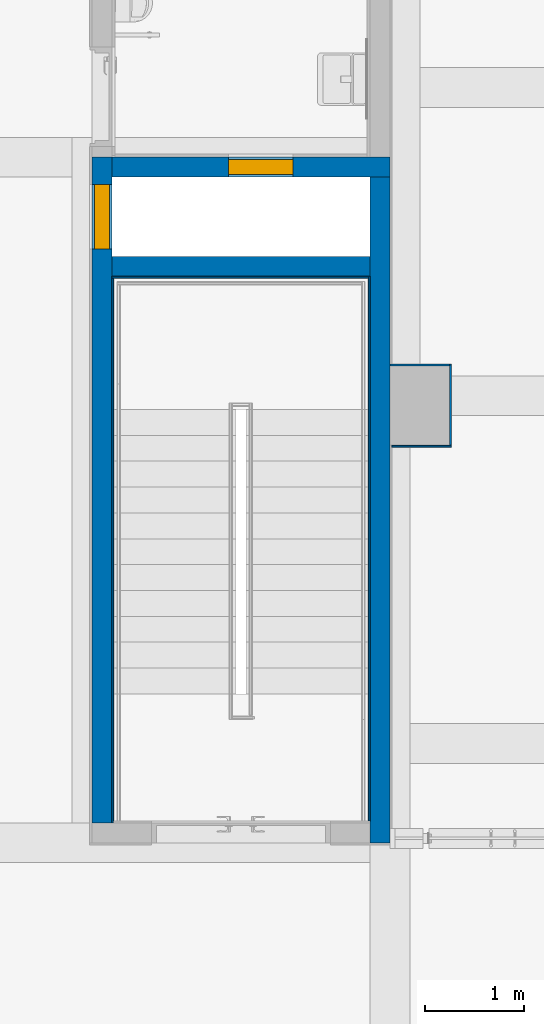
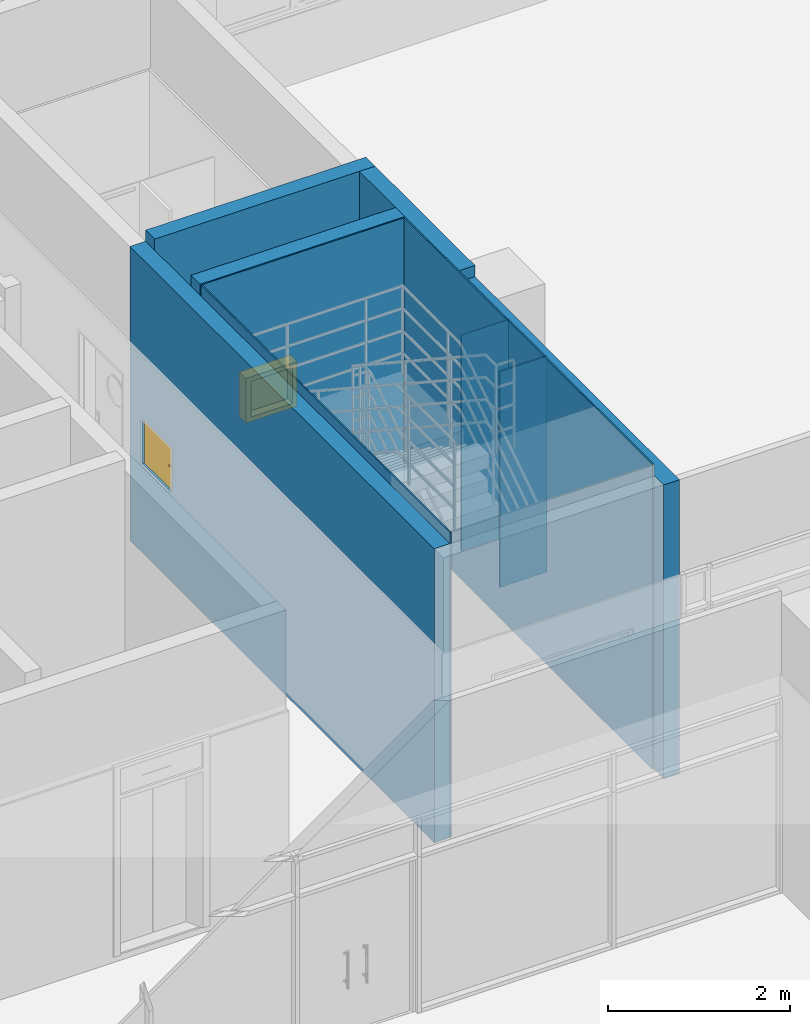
# One storey, part 58 of 81: 10 walls, 2 doors, 2 openings.
"""IFC2X3 building model written with IfcOpenShell, lengths in millimetres."""

from ifc_helpers import new_model, entity, si_unit, converted_unit, derived_unit, direction, frame, frame_2d, origin, place, context, subcontext, project, spatial, polyline, rectangle, extrude, clip, bounded_halfspace, faceted_brep, source, transform, mapped, material, material_list, layer, layer_set, layer_usage, type_object, type_shapes, element, fill, save


model = new_model("IFC2X3")

# Units and contexts
model_context = context("Model", 3, precision=0.01, world=origin(), true_north=direction((6.123031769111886e-17, 1.0)))
body_context = subcontext(model_context, "Body", "Model", "MODEL_VIEW")
ifc_project = project(units=[si_unit("LENGTHUNIT", "METRE", prefix="MILLI"), si_unit("AREAUNIT", "SQUARE_METRE"), si_unit("VOLUMEUNIT", "CUBIC_METRE"), converted_unit("PLANEANGLEUNIT", "DEGREE", entity("IfcRatioMeasure", 0.017453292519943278), si_unit("PLANEANGLEUNIT", "RADIAN"), dimensions=[0, 0, 0, 0, 0, 0, 0]), si_unit("MASSUNIT", "GRAM", prefix="KILO"), derived_unit("MASSDENSITYUNIT", [(si_unit("MASSUNIT", "GRAM", prefix="KILO"), 1), (si_unit("LENGTHUNIT", "METRE"), -3)]), derived_unit("MOMENTOFINERTIAUNIT", [(si_unit("LENGTHUNIT", "METRE"), 4)]), si_unit("TIMEUNIT", "SECOND"), si_unit("FREQUENCYUNIT", "HERTZ"), si_unit("THERMODYNAMICTEMPERATUREUNIT", "DEGREE_CELSIUS"), derived_unit("THERMALTRANSMITTANCEUNIT", [(si_unit("MASSUNIT", "GRAM", prefix="KILO"), 1), (si_unit("THERMODYNAMICTEMPERATUREUNIT", "KELVIN"), -1), (si_unit("TIMEUNIT", "SECOND"), -3)]), derived_unit("VOLUMETRICFLOWRATEUNIT", [(si_unit("LENGTHUNIT", "METRE"), 3), (si_unit("TIMEUNIT", "SECOND"), -1)]), derived_unit("MASSFLOWRATEUNIT", [(si_unit("MASSUNIT", "GRAM", prefix="KILO"), 1), (si_unit("TIMEUNIT", "SECOND"), -1)]), derived_unit("ROTATIONALFREQUENCYUNIT", [(si_unit("TIMEUNIT", "SECOND"), -1)]), si_unit("ELECTRICCURRENTUNIT", "AMPERE"), si_unit("ELECTRICVOLTAGEUNIT", "VOLT"), si_unit("POWERUNIT", "WATT"), si_unit("FORCEUNIT", "NEWTON", prefix="KILO"), si_unit("ILLUMINANCEUNIT", "LUX"), si_unit("LUMINOUSFLUXUNIT", "LUMEN"), si_unit("LUMINOUSINTENSITYUNIT", "CANDELA"), derived_unit("USERDEFINED", [(si_unit("MASSUNIT", "GRAM", prefix="KILO"), -1), (si_unit("LENGTHUNIT", "METRE"), -2), (si_unit("TIMEUNIT", "SECOND"), 3), (si_unit("LUMINOUSFLUXUNIT", "LUMEN"), 1)]), derived_unit("SOUNDPOWERUNIT", [(si_unit("MASSUNIT", "GRAM", prefix="KILO"), 1), (si_unit("LENGTHUNIT", "METRE"), 2), (si_unit("TIMEUNIT", "SECOND"), -3)]), derived_unit("SOUNDPRESSUREUNIT", [(si_unit("MASSUNIT", "GRAM", prefix="KILO"), 1), (si_unit("LENGTHUNIT", "METRE"), -1), (si_unit("TIMEUNIT", "SECOND"), -2)]), derived_unit("LINEARVELOCITYUNIT", [(si_unit("LENGTHUNIT", "METRE"), 1), (si_unit("TIMEUNIT", "SECOND"), -1)]), si_unit("PRESSUREUNIT", "PASCAL"), derived_unit("USERDEFINED", [(si_unit("LENGTHUNIT", "METRE"), -2), (si_unit("MASSUNIT", "GRAM", prefix="KILO"), 1), (si_unit("TIMEUNIT", "SECOND"), -2)]), derived_unit("LINEARFORCEUNIT", [(si_unit("MASSUNIT", "GRAM", prefix="KILO"), 1), (si_unit("LENGTHUNIT", "METRE"), 1), (si_unit("TIMEUNIT", "SECOND"), -2), (si_unit("LENGTHUNIT", "METRE"), -1)]), derived_unit("PLANARFORCEUNIT", [(si_unit("MASSUNIT", "GRAM", prefix="KILO"), 1), (si_unit("LENGTHUNIT", "METRE"), 1), (si_unit("TIMEUNIT", "SECOND"), -2), (si_unit("LENGTHUNIT", "METRE"), -2)])], contexts=[model_context])

# Site, building, storey
site_placement = place(None, frame((-14167.972527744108, -657.2125860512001, 0.0)))
site = spatial("IfcSite", under=ifc_project, at=site_placement, Name="Default", CompositionType="ELEMENT")
building_placement = place(site_placement, origin())
building = spatial("IfcBuilding", under=site, at=building_placement, Name="Sample Building", CompositionType="ELEMENT")
storey_placement = place(building_placement, frame((0.0, 0.0, 13400.0)))
storey = spatial("IfcBuildingStorey", under=building, at=storey_placement, Name="지상 4층", CompositionType="ELEMENT", Elevation=13400.00000000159)

# Wall, opening, door
ifc_material_1 = material(Name="KBIMS-콘크리트")
ifc_layer_1 = layer(ifc_material_1, 200.0)
ifc_layer_set_1 = layer_set([ifc_layer_1], Name="기본 벽:WA111-철근콘크리트구조 벽 200mm_CW1")
ifc_layer_usage_1 = layer_usage(ifc_layer_set_1, "AXIS2", "NEGATIVE", 100.0)
wall_type_1 = type_object("IfcWallType", Name="기본 벽:WA111-철근콘크리트구조 벽 200mm_CW1", PredefinedType="STANDARD", material=ifc_layer_set_1)
wall_1_placement = place(storey_placement, frame((38067.96379814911, 22457.212298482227, -2.3000097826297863e-09), z_axis=(0.0, 0.0, 1.0), x_axis=(0.0, -1.0, 0.0)))
wall_1 = element("IfcWallStandardCase", 1, at=wall_1_placement, inside=storey, type_object=wall_type_1, material=ifc_layer_usage_1, Name="기본 벽:WA111-철근콘크리트구조 벽 200mm_CW1", ObjectType="기본 벽:WA111-철근콘크리트구조 벽 200mm_CW1", context=body_context, shape_type="Clipping", body=[
    clip(extrude(rectangle(XDim=6700.000003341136, YDim=199.99999999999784, at=frame_2d((3350.000001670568, 0.0), x_axis=(-1.0, 0.0))), origin(), (0.0, 0.0, 1.0), 3950.0000000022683), bounded_halfspace(frame((0.0, -100.0, 3950.0), z_axis=(0.0, 0.0, -1.0), x_axis=(0.0, 1.0, 0.0)), True, frame((0.0, -100.0, 3950.0), z_axis=(0.0, 0.0, -1.0), x_axis=(0.0, 1.0, 0.0)), polyline([(0.0, 0.0), (60960.0, 0.0), (60960.0, 2011680.0046911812), (60960.0, 2042160.0), (0.0, 2042160.0), (0.0, 61112.381608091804), (0.0, 60959.96004216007), (0.0, 0.0)]))),
])
opening_1_placement = place(wall_1_placement, frame((925.0346247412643, 100.0, 1200.0)))
opening_1 = element("IfcOpeningElement", 2, at=opening_1_placement, cuts=wall_1, Name="DR872-샤프트 점검구(스테인리스 스틸):DR872-샤프트 점검구(스테인리스 스틸)_650x600:1", ObjectType="Opening", context=body_context, shape_type="SweptSolid", body=[
    extrude(rectangle(XDim=600.0, YDim=649.9999999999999, at=frame_2d((300.0, 324.99999999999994), x_axis=(1.0, 0.0))), frame((0.0, 0.0, 0.0), z_axis=(0.0, -1.0, 0.0), x_axis=(0.0, 0.0, 1.0)), (0.0, 0.0, 1.0), 200.0),
])
ifc_material_2 = material(Name="KBIMS-스테인리스 스틸_도금")
ifc_material_list = material_list([ifc_material_2, ifc_material_2, ifc_material_2, ifc_material_2])
door_style = type_object("IfcDoorStyle", Name="DR872-샤프트 점검구(스테인리스 스틸):DR872-샤프트 점검구(스테인리스 스틸)_650x600", ConstructionType="NOTDEFINED", OperationType="SINGLE_SWING_LEFT", ParameterTakesPrecedence=False, Sizeable=False, material=ifc_material_list)
shared_shape = source(origin(), body_context, "Body", "Brep", [
    faceted_brep([(105.0, 125.0, 282.67949192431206), (109.1421356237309, 125.0, 285.85786437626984), (102.50000000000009, 125.0, 287.0096189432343), (98.8822856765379, 125.0, 285.51111260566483), (100.17638090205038, 125.0, 280.6814834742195), (105.6066017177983, 125.0, 289.39339828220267), (112.32050807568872, 125.0, 290.0), (107.99038105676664, 125.0, 292.50000000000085), (109.48888739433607, 125.0, 296.1177143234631), (114.31851652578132, 125.0, 294.82361909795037), (110.0, 125.0, 300.0), (115.0, 125.0, 300.0), (109.48888739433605, 125.0, 303.8822856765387), (114.31851652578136, 125.0, 305.17638090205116), (107.9903810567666, 125.0, 307.5000000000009), (112.32050807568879, 125.0, 310.0), (105.60660171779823, 125.0, 310.6066017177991), (109.14213562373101, 125.0, 314.1421356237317), (102.50000000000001, 125.0, 312.9903810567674), (105.0, 125.0, 317.32050807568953), (98.8822856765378, 125.0, 314.48888739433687), (100.17638090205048, 125.0, 319.3185165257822), (95.0, 125.0, 315.0), (95.0, 125.0, 320.0), (91.11771432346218, 125.0, 314.48888739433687), (89.82361909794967, 125.0, 319.31851652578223), (87.5, 125.0, 312.9903810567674), (85.0, 125.0, 317.32050807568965), (84.39339828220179, 125.0, 310.6066017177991), (80.85786437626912, 125.0, 314.14213562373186), (82.00961894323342, 125.0, 307.5000000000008), (77.6794919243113, 125.0, 310.0), (75.68148347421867, 125.0, 305.17638090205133), (80.51111260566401, 125.0, 303.88228567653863), (75.0, 125.0, 300.0), (80.0, 125.0, 300.0), (75.68148347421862, 125.0, 294.8236190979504), (80.51111260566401, 125.0, 296.1177143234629), (77.67949192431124, 125.0, 290.0), (82.00961894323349, 125.0, 292.50000000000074), (80.85786437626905, 125.0, 285.8578643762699), (84.39339828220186, 125.0, 289.39339828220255), (85.0, 125.0, 282.67949192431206), (87.50000000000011, 125.0, 287.0096189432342), (89.82361909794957, 125.0, 280.6814834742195), (91.11771432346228, 125.0, 285.5111126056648), (95.0, 125.0, 280.0), (95.0, 125.0, 285.0), (105.0, 130.0, 317.32050807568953), (109.14213562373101, 130.0, 314.1421356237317), (102.50000000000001, 130.0, 312.9903810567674), (98.8822856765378, 130.0, 314.48888739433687), (100.17638090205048, 130.0, 319.3185165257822), (105.60660171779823, 130.0, 310.6066017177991), (112.32050807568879, 130.0, 310.0), (107.9903810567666, 130.0, 307.5000000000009), (109.48888739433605, 130.0, 303.8822856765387), (114.31851652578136, 130.0, 305.17638090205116), (110.0, 130.0, 300.0), (115.0, 130.0, 300.0), (109.48888739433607, 130.0, 296.1177143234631), (114.31851652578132, 130.0, 294.82361909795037), (107.99038105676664, 130.0, 292.50000000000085), (112.32050807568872, 130.0, 290.0), (105.6066017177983, 130.0, 289.39339828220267), (109.1421356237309, 130.0, 285.85786437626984), (102.50000000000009, 130.0, 287.0096189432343), (105.0, 130.0, 282.67949192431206), (98.8822856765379, 130.0, 285.51111260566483), (100.17638090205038, 130.0, 280.6814834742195), (95.0, 130.0, 285.0), (95.0, 130.0, 280.0), (91.11771432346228, 130.0, 285.5111126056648), (89.82361909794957, 130.0, 280.6814834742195), (87.50000000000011, 130.0, 287.0096189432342), (85.0, 130.0, 282.67949192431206), (84.39339828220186, 130.0, 289.39339828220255), (80.85786437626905, 130.0, 285.8578643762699), (82.00961894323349, 130.0, 292.50000000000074), (77.67949192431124, 130.0, 290.0), (75.68148347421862, 130.0, 294.8236190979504), (80.51111260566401, 130.0, 296.1177143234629), (75.0, 130.0, 300.0), (80.0, 130.0, 300.0), (75.68148347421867, 130.0, 305.17638090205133), (80.51111260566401, 130.0, 303.88228567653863), (77.6794919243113, 130.0, 310.0), (82.00961894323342, 130.0, 307.5000000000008), (80.85786437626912, 130.0, 314.14213562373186), (84.39339828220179, 130.0, 310.6066017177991), (85.0, 130.0, 317.32050807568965), (87.5, 130.0, 312.9903810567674), (89.82361909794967, 130.0, 319.31851652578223), (91.11771432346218, 130.0, 314.48888739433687), (95.0, 130.0, 320.0), (95.0, 130.0, 315.0)], [[[0, 1, 2]], [[0, 2, 3]], [[3, 4, 0]], [[2, 1, 5]], [[6, 5, 1]], [[7, 5, 6]], [[8, 7, 6]], [[8, 6, 9]], [[8, 9, 10]], [[10, 9, 11]], [[12, 10, 11]], [[12, 11, 13]], [[14, 12, 13]], [[14, 13, 15]], [[16, 14, 15]], [[15, 17, 16]], [[17, 18, 16]], [[18, 17, 19]], [[18, 19, 20]], [[21, 20, 19]], [[20, 21, 22]], [[22, 21, 23]], [[23, 24, 22]], [[24, 23, 25]], [[24, 25, 26]], [[27, 26, 25]], [[27, 28, 26]], [[27, 29, 28]], [[30, 28, 29]], [[31, 30, 29]], [[32, 30, 31]], [[33, 30, 32]], [[33, 32, 34]], [[34, 35, 33]], [[36, 35, 34]], [[36, 37, 35]], [[37, 36, 38]], [[39, 37, 38]], [[39, 38, 40]], [[39, 40, 41]], [[40, 42, 41]], [[41, 42, 43]], [[43, 42, 44]], [[44, 45, 43]], [[46, 45, 44]], [[4, 47, 46]], [[45, 46, 47]], [[4, 3, 47]], [[48, 49, 50]], [[48, 50, 51]], [[51, 52, 48]], [[50, 49, 53]], [[54, 53, 49]], [[55, 53, 54]], [[56, 55, 54]], [[56, 54, 57]], [[56, 57, 58]], [[58, 57, 59]], [[60, 58, 59]], [[60, 59, 61]], [[62, 60, 61]], [[62, 61, 63]], [[64, 62, 63]], [[63, 65, 64]], [[65, 66, 64]], [[66, 65, 67]], [[66, 67, 68]], [[69, 68, 67]], [[68, 69, 70]], [[70, 69, 71]], [[71, 72, 70]], [[72, 71, 73]], [[72, 73, 74]], [[75, 74, 73]], [[75, 76, 74]], [[75, 77, 76]], [[78, 76, 77]], [[79, 78, 77]], [[80, 78, 79]], [[81, 78, 80]], [[81, 80, 82]], [[82, 83, 81]], [[84, 83, 82]], [[84, 85, 83]], [[85, 84, 86]], [[87, 85, 86]], [[87, 86, 88]], [[87, 88, 89]], [[88, 90, 89]], [[89, 90, 91]], [[91, 90, 92]], [[92, 93, 91]], [[94, 93, 92]], [[52, 95, 94]], [[93, 94, 95]], [[52, 51, 95]], [[10, 58, 60, 8]], [[8, 60, 62, 7]], [[2, 5, 64, 66]], [[62, 64, 5, 7]], [[3, 2, 66, 68]], [[70, 47, 3, 68]], [[45, 72, 74, 43]], [[43, 74, 76, 41]], [[37, 39, 78, 81]], [[76, 78, 39, 41]], [[35, 37, 81, 83]], [[45, 47, 70, 72]], [[35, 83, 85, 33]], [[33, 85, 87, 30]], [[26, 28, 89, 91]], [[87, 89, 28, 30]], [[24, 26, 91, 93]], [[95, 22, 24, 93]], [[20, 51, 50, 18]], [[18, 50, 53, 16]], [[12, 14, 55, 56]], [[53, 55, 14, 16]], [[10, 12, 56, 58]], [[20, 22, 95, 51]], [[57, 13, 11, 59]], [[54, 15, 13, 57]], [[19, 17, 49, 48]], [[54, 49, 17, 15]], [[21, 19, 48, 52]], [[23, 21, 52, 94]], [[92, 25, 23, 94]], [[90, 27, 25, 92]], [[31, 29, 88, 86]], [[90, 88, 29, 27]], [[32, 31, 86, 84]], [[34, 32, 84, 82]], [[80, 36, 34, 82]], [[79, 38, 36, 80]], [[42, 40, 77, 75]], [[79, 77, 40, 38]], [[44, 42, 75, 73]], [[46, 44, 73, 71]], [[69, 4, 46, 71]], [[67, 0, 4, 69]], [[6, 1, 65, 63]], [[67, 65, 1, 0]], [[9, 6, 63, 61]], [[11, 9, 61, 59]]]),
    faceted_brep([(85.0, 180.0, 282.67949192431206), (80.85786437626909, 180.0, 285.85786437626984), (87.49999999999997, 180.0, 287.0096189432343), (91.11771432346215, 180.0, 285.51111260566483), (89.8236190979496, 180.0, 280.6814834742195), (84.39339828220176, 180.0, 289.39339828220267), (77.67949192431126, 180.0, 290.0), (82.00961894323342, 180.0, 292.50000000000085), (80.51111260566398, 180.0, 296.1177143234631), (75.68148347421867, 180.0, 294.82361909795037), (80.0, 180.0, 300.0), (75.0, 180.0, 300.0), (80.51111260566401, 180.0, 303.8822856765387), (75.68148347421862, 180.0, 305.17638090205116), (82.00961894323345, 180.0, 307.5000000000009), (77.6794919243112, 180.0, 310.0), (84.39339828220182, 180.0, 310.6066017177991), (80.85786437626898, 180.0, 314.1421356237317), (87.50000000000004, 180.0, 312.9903810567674), (85.0, 180.0, 317.32050807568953), (91.11771432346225, 180.0, 314.48888739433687), (89.8236190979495, 180.0, 319.3185165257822), (95.0, 180.0, 315.0), (95.0, 180.0, 320.0), (98.88228567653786, 180.0, 314.48888739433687), (100.17638090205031, 180.0, 319.31851652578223), (102.50000000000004, 180.0, 312.9903810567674), (105.0, 180.0, 317.32050807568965), (105.60660171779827, 180.0, 310.6066017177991), (109.14213562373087, 180.0, 314.14213562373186), (107.99038105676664, 180.0, 307.5000000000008), (112.32050807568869, 180.0, 310.0), (114.31851652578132, 180.0, 305.17638090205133), (109.48888739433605, 180.0, 303.88228567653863), (115.0, 180.0, 300.0), (110.0, 180.0, 300.0), (114.31851652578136, 180.0, 294.8236190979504), (109.48888739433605, 180.0, 296.1177143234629), (112.32050807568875, 180.0, 290.0), (107.99038105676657, 180.0, 292.50000000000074), (109.14213562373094, 180.0, 285.8578643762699), (105.6066017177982, 180.0, 289.39339828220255), (105.0, 180.0, 282.67949192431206), (102.49999999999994, 180.0, 287.0096189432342), (100.17638090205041, 180.0, 280.6814834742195), (98.88228567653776, 180.0, 285.5111126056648), (95.0, 180.0, 280.0), (95.0, 180.0, 285.0), (85.0, 175.0, 317.32050807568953), (80.85786437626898, 175.0, 314.1421356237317), (87.50000000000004, 175.0, 312.9903810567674), (91.11771432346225, 175.0, 314.48888739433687), (89.8236190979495, 175.0, 319.3185165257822), (84.39339828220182, 175.0, 310.6066017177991), (77.6794919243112, 175.0, 310.0), (82.00961894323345, 175.0, 307.5000000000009), (80.51111260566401, 175.0, 303.8822856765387), (75.68148347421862, 175.0, 305.17638090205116), (80.0, 175.0, 300.0), (75.0, 175.0, 300.0), (80.51111260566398, 175.0, 296.1177143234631), (75.68148347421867, 175.0, 294.82361909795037), (82.00961894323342, 175.0, 292.50000000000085), (77.67949192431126, 175.0, 290.0), (84.39339828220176, 175.0, 289.39339828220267), (80.85786437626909, 175.0, 285.85786437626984), (87.49999999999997, 175.0, 287.0096189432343), (85.0, 175.0, 282.67949192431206), (91.11771432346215, 175.0, 285.51111260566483), (89.8236190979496, 175.0, 280.6814834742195), (95.0, 175.0, 285.0), (95.0, 175.0, 280.0), (98.88228567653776, 175.0, 285.5111126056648), (100.17638090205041, 175.0, 280.6814834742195), (102.49999999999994, 175.0, 287.0096189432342), (105.0, 175.0, 282.67949192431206), (105.6066017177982, 175.0, 289.39339828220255), (109.14213562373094, 175.0, 285.8578643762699), (107.99038105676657, 175.0, 292.50000000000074), (112.32050807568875, 175.0, 290.0), (114.31851652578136, 175.0, 294.8236190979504), (109.48888739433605, 175.0, 296.1177143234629), (115.0, 175.0, 300.0), (110.0, 175.0, 300.0), (114.31851652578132, 175.0, 305.17638090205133), (109.48888739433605, 175.0, 303.88228567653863), (112.32050807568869, 175.0, 310.0), (107.99038105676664, 175.0, 307.5000000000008), (109.14213562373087, 175.0, 314.14213562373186), (105.60660171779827, 175.0, 310.6066017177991), (105.0, 175.0, 317.32050807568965), (102.50000000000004, 175.0, 312.9903810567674), (100.17638090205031, 175.0, 319.31851652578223), (98.88228567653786, 175.0, 314.48888739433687), (95.0, 175.0, 320.0), (95.0, 175.0, 315.0)], [[[0, 1, 2]], [[0, 2, 3]], [[3, 4, 0]], [[2, 1, 5]], [[6, 5, 1]], [[7, 5, 6]], [[8, 7, 6]], [[8, 6, 9]], [[8, 9, 10]], [[10, 9, 11]], [[12, 10, 11]], [[12, 11, 13]], [[14, 12, 13]], [[14, 13, 15]], [[16, 14, 15]], [[15, 17, 16]], [[17, 18, 16]], [[18, 17, 19]], [[18, 19, 20]], [[21, 20, 19]], [[20, 21, 22]], [[22, 21, 23]], [[23, 24, 22]], [[24, 23, 25]], [[24, 25, 26]], [[27, 26, 25]], [[27, 28, 26]], [[27, 29, 28]], [[30, 28, 29]], [[31, 30, 29]], [[32, 30, 31]], [[33, 30, 32]], [[33, 32, 34]], [[34, 35, 33]], [[36, 35, 34]], [[36, 37, 35]], [[37, 36, 38]], [[39, 37, 38]], [[39, 38, 40]], [[39, 40, 41]], [[40, 42, 41]], [[41, 42, 43]], [[43, 42, 44]], [[44, 45, 43]], [[46, 45, 44]], [[4, 47, 46]], [[45, 46, 47]], [[4, 3, 47]], [[48, 49, 50]], [[48, 50, 51]], [[51, 52, 48]], [[50, 49, 53]], [[54, 53, 49]], [[55, 53, 54]], [[56, 55, 54]], [[56, 54, 57]], [[56, 57, 58]], [[58, 57, 59]], [[60, 58, 59]], [[60, 59, 61]], [[62, 60, 61]], [[62, 61, 63]], [[64, 62, 63]], [[63, 65, 64]], [[65, 66, 64]], [[66, 65, 67]], [[66, 67, 68]], [[69, 68, 67]], [[68, 69, 70]], [[70, 69, 71]], [[71, 72, 70]], [[72, 71, 73]], [[72, 73, 74]], [[75, 74, 73]], [[75, 76, 74]], [[75, 77, 76]], [[78, 76, 77]], [[79, 78, 77]], [[80, 78, 79]], [[81, 78, 80]], [[81, 80, 82]], [[82, 83, 81]], [[84, 83, 82]], [[84, 85, 83]], [[85, 84, 86]], [[87, 85, 86]], [[87, 86, 88]], [[87, 88, 89]], [[88, 90, 89]], [[89, 90, 91]], [[91, 90, 92]], [[92, 93, 91]], [[94, 93, 92]], [[52, 95, 94]], [[93, 94, 95]], [[52, 51, 95]], [[35, 83, 85, 33]], [[33, 85, 87, 30]], [[26, 28, 89, 91]], [[87, 89, 28, 30]], [[24, 26, 91, 93]], [[95, 22, 24, 93]], [[20, 51, 50, 18]], [[18, 50, 53, 16]], [[12, 14, 55, 56]], [[53, 55, 14, 16]], [[10, 12, 56, 58]], [[20, 22, 95, 51]], [[10, 58, 60, 8]], [[8, 60, 62, 7]], [[2, 5, 64, 66]], [[62, 64, 5, 7]], [[3, 2, 66, 68]], [[70, 47, 3, 68]], [[45, 72, 74, 43]], [[43, 74, 76, 41]], [[37, 39, 78, 81]], [[76, 78, 39, 41]], [[35, 37, 81, 83]], [[45, 47, 70, 72]], [[80, 36, 34, 82]], [[79, 38, 36, 80]], [[42, 40, 77, 75]], [[79, 77, 40, 38]], [[44, 42, 75, 73]], [[46, 44, 73, 71]], [[69, 4, 46, 71]], [[67, 0, 4, 69]], [[6, 1, 65, 63]], [[67, 65, 1, 0]], [[9, 6, 63, 61]], [[11, 9, 61, 59]], [[57, 13, 11, 59]], [[54, 15, 13, 57]], [[19, 17, 49, 48]], [[54, 49, 17, 15]], [[21, 19, 48, 52]], [[23, 21, 52, 94]], [[92, 25, 23, 94]], [[90, 27, 25, 92]], [[31, 29, 88, 86]], [[90, 88, 29, 27]], [[32, 31, 86, 84]], [[34, 32, 84, 82]]]),
    faceted_brep([(620.0, 175.0, 570.0), (30.0, 175.0, 570.0), (30.0, 130.0, 570.0), (620.0, 130.0, 570.0), (620.0, 175.0, 30.0), (620.0, 130.0, 30.0), (30.0, 130.0, 30.0), (30.0, 175.0, 30.0)], [[[0, 1, 2, 3]], [[4, 5, 6, 7]], [[1, 0, 4, 7]], [[2, 1, 7, 6]], [[3, 2, 6, 5]], [[0, 3, 5, 4]]]),
    faceted_brep([(30.0, 130.0, 570.0), (30.0, 175.0, 570.0), (620.0, 175.0, 570.0), (620.0, 130.0, 570.0), (60.0, 25.0, 540.0), (60.0, 130.0, 540.0), (590.0, 130.0, 540.0), (590.0, 25.0, 540.0), (0.0, 175.0, 600.0), (0.0, 25.0, 600.0), (650.0, 25.0, 600.0), (650.0, 175.0, 600.0), (620.0, 175.0, 30.0), (620.0, 130.0, 30.0), (590.0, 130.0, 60.0), (590.0, 25.0, 60.0), (650.0, 25.0, 0.0), (650.0, 175.0, 0.0), (30.0, 175.0, 30.0), (30.0, 130.0, 30.0), (60.0, 130.0, 60.0), (60.0, 25.0, 60.0), (0.0, 25.0, 0.0), (0.0, 175.0, 0.0)], [[[0, 1, 2, 3]], [[4, 5, 6, 7]], [[8, 9, 10, 11]], [[3, 2, 12, 13]], [[7, 6, 14, 15]], [[11, 10, 16, 17]], [[13, 12, 18, 19]], [[15, 14, 20, 21]], [[17, 16, 22, 23]], [[19, 18, 1, 0]], [[3, 13, 19, 0], [5, 20, 14, 6]], [[21, 20, 5, 4]], [[7, 15, 21, 4], [9, 22, 16, 10]], [[23, 22, 9, 8]], [[11, 17, 23, 8], [1, 18, 12, 2]]], outer=[[True], [True], [True], [True], [True], [True], [True], [True], [True], [True], [True, False], [True], [False, True], [True], [True, False]]),
])
type_shapes(door_style, [shared_shape])
door_1_placement = place(opening_1_placement, frame((0.0, 0.0, 2.2992026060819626e-09), z_axis=(0.0, 0.0, 1.0), x_axis=(-1.0, 0.0, 0.0)))
door_1 = element("IfcDoor", 3, at=door_1_placement, inside=storey, type_object=door_style, material=ifc_material_2, Name="DR872-샤프트 점검구(스테인리스 스틸):DR872-샤프트 점검구(스테인리스 스틸)_650x600", ObjectType="DR872-샤프트 점검구(스테인리스 스틸):DR872-샤프트 점검구(스테인리스 스틸)_650x600", OverallHeight=600.0, OverallWidth=649.9999999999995, context=body_context, shape_type="MappedRepresentation", body=[
    mapped(shared_shape, transform((0.0, 0.0, 0.0), scale=1.0)),
])
fill(opening_1, door_1)

ifc_layer_usage_2 = layer_usage(ifc_layer_set_1, "AXIS2", "NEGATIVE", 100.0)
wall_2_placement = place(storey_placement, frame((40967.963798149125, 22357.21229848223, -2.3000097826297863e-09), z_axis=(0.0, 0.0, 1.0), x_axis=(-1.0, 0.0, 0.0)))
wall_2 = element("IfcWallStandardCase", 4, at=wall_2_placement, inside=storey, type_object=wall_type_1, material=ifc_layer_usage_2, Name="기본 벽:WA111-철근콘크리트구조 벽 200mm_CW1", ObjectType="기본 벽:WA111-철근콘크리트구조 벽 200mm_CW1", context=body_context, shape_type="SweptSolid", body=[
    extrude(rectangle(XDim=2800.000000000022, YDim=200.00000000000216, at=frame_2d((1400.000000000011, -1.8260948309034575e-12), x_axis=(-1.0, 0.0))), origin(), (0.0, 0.0, 1.0), 4100.000000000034),
])
opening_2_placement = place(wall_2_placement, frame((1624.991397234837, 100.0, 1200.0)))
opening_2 = element("IfcOpeningElement", 5, at=opening_2_placement, cuts=wall_2, Name="DR872-샤프트 점검구(스테인리스 스틸):DR872-샤프트 점검구(스테인리스 스틸)_650x600:1", ObjectType="Opening", context=body_context, shape_type="SweptSolid", body=[
    extrude(rectangle(XDim=600.0, YDim=649.9999999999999, at=frame_2d((300.0, 324.99999999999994), x_axis=(1.0, 0.0))), frame((0.0, 0.0, 0.0), z_axis=(0.0, -1.0, 0.0), x_axis=(0.0, 0.0, 1.0)), (0.0, 0.0, 1.0), 200.0),
])
door_2_placement = place(opening_2_placement, frame((0.0, 0.0, 2.2992026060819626e-09), z_axis=(0.0, 0.0, 1.0), x_axis=(-1.0, 0.0, 0.0)))
door_2 = element("IfcDoor", 6, at=door_2_placement, inside=storey, type_object=door_style, material=ifc_material_2, Name="DR872-샤프트 점검구(스테인리스 스틸):DR872-샤프트 점검구(스테인리스 스틸)_650x600", ObjectType="DR872-샤프트 점검구(스테인리스 스틸):DR872-샤프트 점검구(스테인리스 스틸)_650x600", OverallHeight=600.0, OverallWidth=649.9999999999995, context=body_context, shape_type="MappedRepresentation", body=[
    mapped(shared_shape, transform((0.0, 0.0, 0.0), scale=1.0)),
])
fill(opening_2, door_2)

# Walls
ifc_layer_usage_3 = layer_usage(ifc_layer_set_1, "AXIS2", "NEGATIVE", 100.0)
wall_3_placement = place(storey_placement, frame((40867.96379814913, 15557.212295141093, -2.3000097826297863e-09), z_axis=(0.0, 0.0, 1.0), x_axis=(0.0, 1.0, 0.0)))
element("IfcWallStandardCase", 7, at=wall_3_placement, inside=storey, type_object=wall_type_1, material=ifc_layer_usage_3, Name="기본 벽:WA111-철근콘크리트구조 벽 200mm_CW1", ObjectType="기본 벽:WA111-철근콘크리트구조 벽 200mm_CW1", context=body_context, shape_type="Clipping", body=[
    clip(clip(extrude(rectangle(XDim=6700.000003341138, YDim=199.99999999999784, at=frame_2d((3350.000001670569, 4.334310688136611e-12), x_axis=(-1.0, 0.0))), origin(), (0.0, 0.0, 1.0), 4100.000000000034), bounded_halfspace(frame((4499.999962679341, -100.0, 3950.0), z_axis=(0.0, 0.0, -1.0), x_axis=(-1.0, 0.0, 0.0)), True, frame((4499.999962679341, -100.0, 3950.0), z_axis=(0.0, 0.0, -1.0), x_axis=(-1.0, 0.0, 0.0)), polyline([(0.0, 0.0), (152399.89051006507, 0.0), (1371599.988624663, 3.655759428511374e-09), (1371599.988624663, 60960.0), (1310639.988624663, 60960.0), (0.0, 60960.0), (0.0, 0.0)]))), bounded_halfspace(frame((4499.999962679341, 100.0, 3950.0), z_axis=(1.0, 0.0, 0.0), x_axis=(0.0, 0.0, 1.0)), True, frame((4499.999962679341, 100.0, 3950.0), z_axis=(1.0, 0.0, 0.0), x_axis=(0.0, 0.0, 1.0)), polyline([(0.0, 0.0), (45720.0, 0.0), (45720.0, 60960.0), (0.0, 60960.0), (0.0, 0.0)]))),
])
ifc_layer_usage_4 = layer_usage(ifc_layer_set_1, "AXIS2", "NEGATIVE", 100.0)
wall_4_placement = place(storey_placement, frame((38167.9637981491, 21357.212291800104, -2.3000097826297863e-09)))
element("IfcWallStandardCase", 8, at=wall_4_placement, inside=storey, type_object=wall_type_1, material=ifc_layer_usage_4, Name="기본 벽:WA111-철근콘크리트구조 벽 200mm_CW1", ObjectType="기본 벽:WA111-철근콘크리트구조 벽 200mm_CW1", context=body_context, shape_type="SweptSolid", body=[
    extrude(rectangle(XDim=2600.000000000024, YDim=199.99999999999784, at=frame_2d((1300.000000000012, -1.6342482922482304e-13), x_axis=(-1.0, 0.0))), origin(), (0.0, 0.0, 1.0), 4100.000000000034),
])
ifc_material_3 = material(Name="WA611-수성페인트 (내부) 벽 (3회)")
ifc_layer_2 = layer(ifc_material_3, 1.0)
ifc_material_4 = material(Name="WA551-시멘트모르타르 (내부) 벽 18mm")
ifc_layer_3 = layer(ifc_material_4, 16.0)
ifc_material_5 = material(Name="WA555-콘크리트면정리 벽 (내부)")
ifc_layer_4 = layer(ifc_material_5, 1.0)
ifc_layer_set_2 = layer_set([ifc_layer_2, ifc_layer_3, ifc_layer_4], Name="기본 벽:A1-32-06A-콘크리트면정리, 시멘트모르타르(미장용), 수성페인트(내부) (18mm)")
ifc_layer_usage_5 = layer_usage(ifc_layer_set_2, "AXIS2", "POSITIVE", -9.000000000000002)
wall_type_2 = type_object("IfcWallType", Name="기본 벽:A1-32-06A-콘크리트면정리, 시멘트모르타르(미장용), 수성페인트(내부) (18mm)", PredefinedType="STANDARD", material=ifc_layer_set_2)
wall_5_placement = place(storey_placement, frame((38167.963816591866, 21248.211882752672, 0.0)))
element("IfcWallStandardCase", 9, at=wall_5_placement, inside=storey, type_object=wall_type_2, material=ifc_layer_usage_5, Name="기본 벽:A1-32-06A-콘크리트면정리, 시멘트모르타르(미장용), 수성페인트(내부) (18mm)", ObjectType="기본 벽:A1-32-06A-콘크리트면정리, 시멘트모르타르(미장용), 수성페인트(내부) (18mm)", context=body_context, shape_type="SweptSolid", body=[
    extrude(rectangle(XDim=2582.0086732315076, YDim=18.00000000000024, at=frame_2d((1291.0043366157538, -2.1662671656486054e-12), x_axis=(-1.0, 0.0))), origin(), (0.0, 0.0, 1.0), 4099.999999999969),
])
ifc_layer_usage_6 = layer_usage(ifc_layer_set_2, "AXIS2", "POSITIVE", -9.000000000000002)
wall_6_placement = place(storey_placement, frame((38176.963816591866, 15757.211886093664, 0.0), z_axis=(0.0, 0.0, 1.0), x_axis=(0.0, 1.0, 0.0)))
element("IfcWallStandardCase", 10, at=wall_6_placement, inside=storey, type_object=wall_type_2, material=ifc_layer_usage_6, Name="기본 벽:A1-32-06A-콘크리트면정리, 시멘트모르타르(미장용), 수성페인트(내부) (18mm)", ObjectType="기본 벽:A1-32-06A-콘크리트면정리, 시멘트모르타르(미장용), 수성페인트(내부) (18mm)", context=body_context, shape_type="SweptSolid", body=[
    extrude(rectangle(XDim=5481.999996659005, YDim=18.00000000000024, at=frame_2d((2740.9999983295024, -2.1662671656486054e-12), x_axis=(-1.0, 0.0))), origin(), (0.0, 0.0, 1.0), 4099.999999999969),
])
ifc_layer_usage_7 = layer_usage(ifc_layer_set_2, "AXIS2", "POSITIVE", -9.000000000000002)
wall_7_placement = place(storey_placement, frame((40758.97248982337, 21257.211882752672, 0.0), z_axis=(0.0, 0.0, 1.0), x_axis=(0.0, -1.0, 0.0)))
element("IfcWallStandardCase", 11, at=wall_7_placement, inside=storey, type_object=wall_type_2, material=ifc_layer_usage_7, Name="기본 벽:A1-32-06A-콘크리트면정리, 시멘트모르타르(미장용), 수성페인트(내부) (18mm)", ObjectType="기본 벽:A1-32-06A-콘크리트면정리, 시멘트모르타르(미장용), 수성페인트(내부) (18mm)", context=body_context, shape_type="SweptSolid", body=[
    extrude(rectangle(XDim=5481.999996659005, YDim=17.999999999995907, at=frame_2d((2740.9999983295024, 0.0), x_axis=(-1.0, 0.0))), origin(), (0.0, 0.0, 1.0), 4099.999999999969),
])
ifc_layer_usage_8 = layer_usage(ifc_layer_set_2, "AXIS2", "POSITIVE", -9.000000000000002)
wall_8_placement = place(storey_placement, frame((40985.963816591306, 19548.21189894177, 80.0)))
element("IfcWallStandardCase", 12, at=wall_8_placement, inside=storey, type_object=wall_type_2, material=ifc_layer_usage_8, Name="기본 벽:A1-32-06A-콘크리트면정리, 시멘트모르타르(미장용), 수성페인트(내부) (18mm)", ObjectType="기본 벽:A1-32-06A-콘크리트면정리, 시멘트모르타르(미장용), 수성페인트(내부) (18mm)", context=body_context, shape_type="SweptSolid", body=[
    extrude(rectangle(XDim=600.0086732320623, YDim=18.00000000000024, at=frame_2d((300.00433661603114, -2.1662671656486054e-12), x_axis=(-1.0, 0.0))), origin(), (0.0, 0.0, 1.0), 2899.999999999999),
])
ifc_layer_usage_9 = layer_usage(ifc_layer_set_2, "AXIS2", "POSITIVE", -9.000000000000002)
wall_9_placement = place(storey_placement, frame((41576.97248982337, 19557.211898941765, 80.0), z_axis=(0.0, 0.0, 1.0), x_axis=(0.0, 1.0, 0.0)))
element("IfcWallStandardCase", 13, at=wall_9_placement, inside=storey, type_object=wall_type_2, material=ifc_layer_usage_9, Name="기본 벽:A1-32-06A-콘크리트면정리, 시멘트모르타르(미장용), 수성페인트(내부) (18mm)", ObjectType="기본 벽:A1-32-06A-콘크리트면정리, 시멘트모르타르(미장용), 수성페인트(내부) (18mm)", context=body_context, shape_type="SweptSolid", body=[
    extrude(rectangle(XDim=818.0000000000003, YDim=17.999999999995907, at=frame_2d((409.00000000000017, 0.0), x_axis=(-1.0, 0.0))), origin(), (0.0, 0.0, 1.0), 2899.999999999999),
])
ifc_layer_usage_10 = layer_usage(ifc_layer_set_2, "AXIS2", "POSITIVE", -9.000000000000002)
wall_10_placement = place(storey_placement, frame((41567.97248982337, 20366.21189894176, 80.0), z_axis=(0.0, 0.0, 1.0), x_axis=(-1.0, 0.0, 0.0)))
element("IfcWallStandardCase", 14, at=wall_10_placement, inside=storey, type_object=wall_type_2, material=ifc_layer_usage_10, Name="기본 벽:A1-32-06A-콘크리트면정리, 시멘트모르타르(미장용), 수성페인트(내부) (18mm)", ObjectType="기본 벽:A1-32-06A-콘크리트면정리, 시멘트모르타르(미장용), 수성페인트(내부) (18mm)", context=body_context, shape_type="SweptSolid", body=[
    extrude(rectangle(XDim=600.0086732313, YDim=18.00000000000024, at=frame_2d((300.00433661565, -2.1662671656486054e-12), x_axis=(-1.0, 0.0))), origin(), (0.0, 0.0, 1.0), 2899.999999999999),
])

save(model, "model.ifc")
